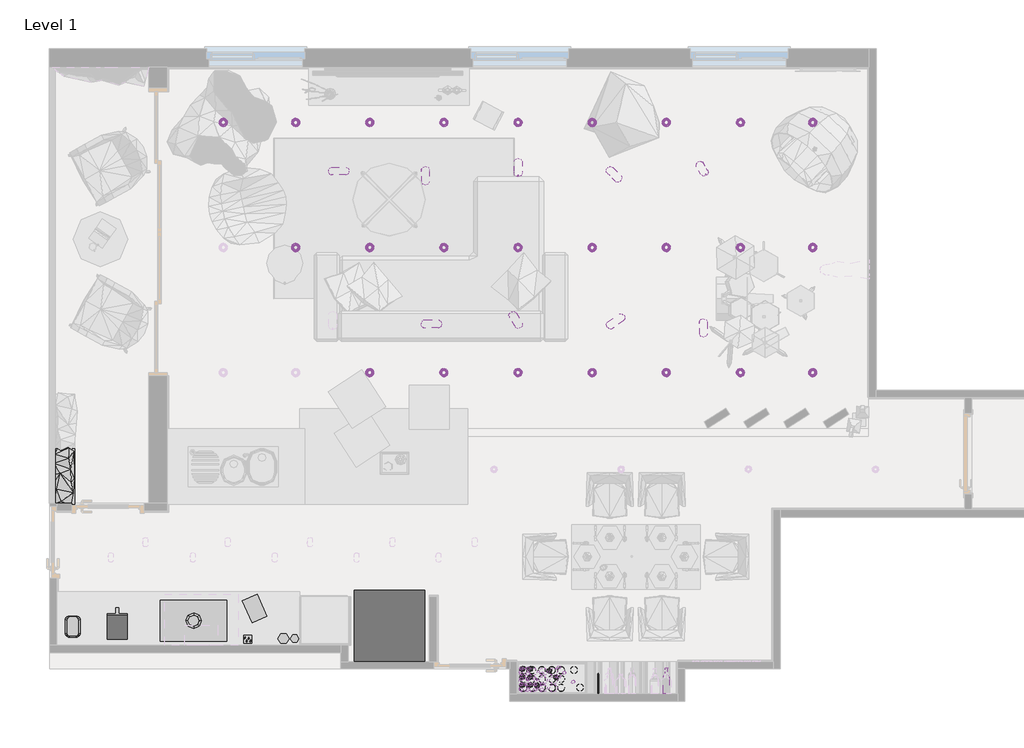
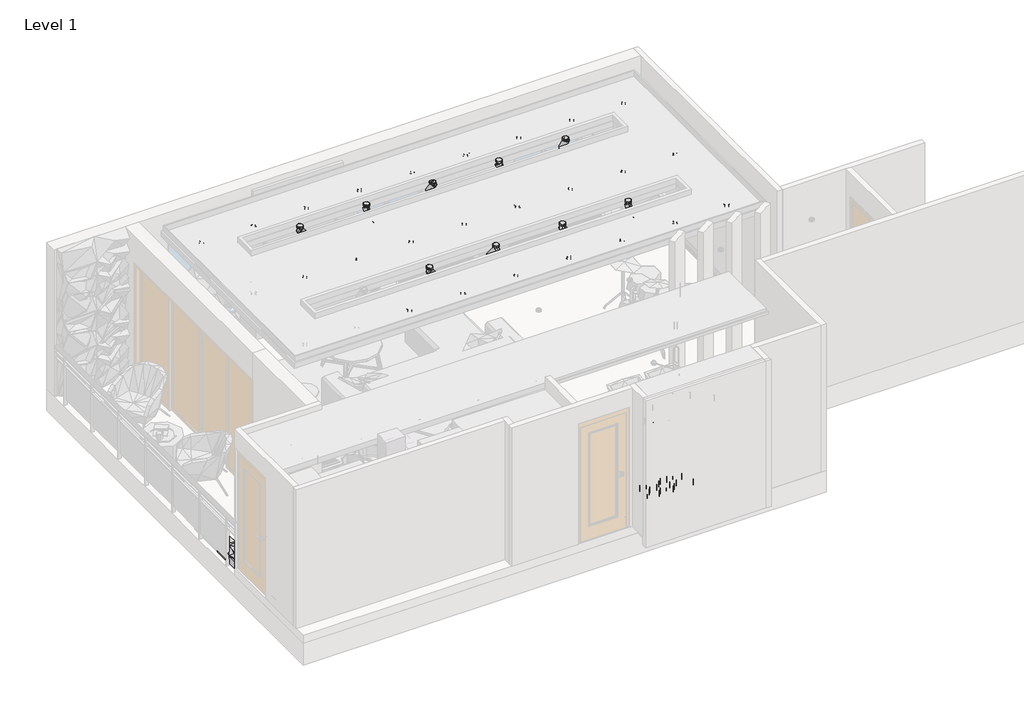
# One storey, part 2 of 3: 70 geographic elements, 33 light fixtures.
"""IFC4 building model written with IfcOpenShell, lengths in millimetres."""

from ifc_helpers import new_model, si_unit, origin, place, context, project, spatial, transform, mapped, element, save
from components import geographic_element_66572eef, geographic_element_bdc61dde, enscape_assetdefinition_bottle_006_wine_enscape_f008a982, enscape_assetdefinition_bottle_007_enscape_assetdefinition_5efa946b, enscape_assetdefinition_bottle_009_enscape_assetdefinition_91462ea6, enscape_assetdefinition_coffee_maker_007_enscape_659ea5d6, enscape_assetdefinition_container_005_enscape_2921bdb9, enscape_assetdefinition_container_006_enscape_9a3ee224, enscape_assetdefinition_cooktop_005_enscape_assetdefinition_37fae546, enscape_assetdefinition_glass_001_champagne_enscape_18e854bc, enscape_assetdefinition_glass_003_cocktail_enscape_7a6d063c, enscape_assetdefinition_glass_008_enscape_assetdefinition_770b69f1, enscape_assetdefinition_glass_012_wine_enscape_47986107, enscape_assetdefinition_kitchen_appliance_013_toaster_69132773, enscape_assetdefinition_kitchen_tool_002_cutting_boards_67aff8ed, enscape_assetdefinition_refrigerator_004_enscape_1c06175c, light_fixture_deb394d0, light_fixture_41abf64e, light_fixture_01643114, light_fixture_e22ec613, light_fixture_58baf5be, light_fixture_a0fbeb15, light_fixture_be3f1eb5, s2_2_7ed8d57b, s2_2_4e384665

model = new_model("IFC4")

# Units and contexts
model_context = context("Model", 3, world=origin())
ifc_project = project(units=[si_unit("LENGTHUNIT", "METRE", prefix="MILLI")], contexts=[model_context])

# Site, building, storey
site = spatial("IfcSite", under=ifc_project)
building = spatial("IfcBuilding", under=site)
storey = spatial("IfcBuildingStorey", under=building, Name="Level 1", Elevation=0.0)

# Geographic elements
placement = place(None, origin())
geographic_element_shape = geographic_element_66572eef(model_context)
element("IfcGeographicElement", 1, ObjectType="Enscape AssetDefinition - Kitchen Tool 016 Knife Block : Enscape AssetDefinition - Kitchen Tool 016 Knife Block", at=placement, inside=storey, context=model_context, shape_type="MappedRepresentation", body=[
    mapped(geographic_element_shape, transform((-5471.6034641, -2171.8717041, 900.0), x_axis=(1.0, 0.0, 0.0), y_axis=(0.0, 1.0, 0.0), z_axis=(0.0, 0.0, 1.0))),
])
geographic_element_2_shape = geographic_element_bdc61dde(model_context)
element("IfcGeographicElement", 2, ObjectType="Enscape AssetDefinition - Potted Plant 099 Geranium Planter : Enscape AssetDefinition - Potted Plant 099 Geranium Planter", at=placement, inside=storey, context=model_context, shape_type="MappedRepresentation", body=[
    mapped(geographic_element_2_shape, transform((-7753.5491004, -140.6706124, -150.0), x_axis=(0.0, 1.0, 0.0), y_axis=(-1.0, 0.0, 0.0), z_axis=(0.0, 0.0, 1.0))),
])
enscape_assetdefinition_bottle_006_wine_enscape_shape = enscape_assetdefinition_bottle_006_wine_enscape_f008a982(model_context)
element("IfcGeographicElement", 3, ObjectType="Enscape AssetDefinition - Bottle 006 Wine : Enscape AssetDefinition - Bottle 006 Wine", at=placement, inside=storey, context=model_context, shape_type="MappedRepresentation", body=[
    mapped(enscape_assetdefinition_bottle_006_wine_enscape_shape, transform((-259.6816647, -2849.0471901, 1797.2707265), x_axis=(1.0, 0.0, 0.0), y_axis=(0.0, 0.0, -1.0), z_axis=(0.0, 1.0, 0.0))),
])
enscape_assetdefinition_bottle_007_enscape_assetdefinition_shape = enscape_assetdefinition_bottle_007_enscape_assetdefinition_5efa946b(model_context)
element("IfcGeographicElement", 4, ObjectType="Enscape AssetDefinition - Bottle 007 : Enscape AssetDefinition - Bottle 007", at=placement, inside=storey, context=model_context, shape_type="MappedRepresentation", body=[
    mapped(enscape_assetdefinition_bottle_007_enscape_assetdefinition_shape, transform((-1107.0056032, -2849.0471901, 1239.2290061), x_axis=(1.0, 0.0, 0.0), y_axis=(0.0, 0.0, -1.0), z_axis=(0.0, 1.0, 0.0))),
])
enscape_assetdefinition_bottle_009_enscape_assetdefinition_shape = enscape_assetdefinition_bottle_009_enscape_assetdefinition_91462ea6(model_context)
element("IfcGeographicElement", 5, ObjectType="Enscape AssetDefinition - Bottle 009 : Enscape AssetDefinition - Bottle 009", at=placement, inside=storey, context=model_context, shape_type="MappedRepresentation", body=[
    mapped(enscape_assetdefinition_bottle_009_enscape_assetdefinition_shape, transform((-1109.1156626, -2849.0471901, 985.0486495), x_axis=(1.0, 0.0, 0.0), y_axis=(0.0, 0.0, -1.0), z_axis=(0.0, 1.0, 0.0))),
])
enscape_assetdefinition_coffee_maker_007_enscape_shape = enscape_assetdefinition_coffee_maker_007_enscape_659ea5d6(model_context)
element("IfcGeographicElement", 6, ObjectType="Enscape AssetDefinition - Coffee Maker 007 : Enscape AssetDefinition - Coffee Maker 007", at=placement, inside=storey, context=model_context, shape_type="MappedRepresentation", body=[
    mapped(enscape_assetdefinition_coffee_maker_007_enscape_shape, transform((-7094.8722423, -2016.6766176, 900.0), x_axis=(-1.0, 0.0, 0.0), y_axis=(0.0, -1.0, 0.0), z_axis=(0.0, 0.0, 1.0))),
])
enscape_assetdefinition_container_005_enscape_shape = enscape_assetdefinition_container_005_enscape_2921bdb9(model_context)
element("IfcGeographicElement", 7, ObjectType="Enscape AssetDefinition - Container 005 : Enscape AssetDefinition - Container 005", at=placement, inside=storey, context=model_context, shape_type="MappedRepresentation", body=[
    mapped(enscape_assetdefinition_container_005_enscape_shape, transform((-4886.6034641, -2160.348587, 900.0), x_axis=(1.0, 0.0, 0.0), y_axis=(0.0, 1.0, 0.0), z_axis=(0.0, 0.0, 1.0))),
])
enscape_assetdefinition_container_006_enscape_shape = enscape_assetdefinition_container_006_enscape_9a3ee224(model_context)
element("IfcGeographicElement", 8, ObjectType="Enscape AssetDefinition - Container 006 : Enscape AssetDefinition - Container 006", at=placement, inside=storey, context=model_context, shape_type="MappedRepresentation", body=[
    mapped(enscape_assetdefinition_container_006_enscape_shape, transform((-5026.6034641, -2160.348587, 900.0), x_axis=(1.0, 0.0, 0.0), y_axis=(0.0, 1.0, 0.0), z_axis=(0.0, 0.0, 1.0))),
])
enscape_assetdefinition_cooktop_005_enscape_assetdefinition_shape = enscape_assetdefinition_cooktop_005_enscape_assetdefinition_37fae546(model_context)
element("IfcGeographicElement", 9, ObjectType="Enscape AssetDefinition - Cooktop 005 : Enscape AssetDefinition - Cooktop 005", at=placement, inside=storey, context=model_context, shape_type="MappedRepresentation", body=[
    mapped(enscape_assetdefinition_cooktop_005_enscape_assetdefinition_shape, transform((-6145.4107527, -1938.8129127, 900.0), x_axis=(1.0, 0.0, 0.0), y_axis=(0.0, 1.0, 0.0), z_axis=(0.0, 0.0, 1.0))),
])
enscape_assetdefinition_glass_001_champagne_enscape_shape = enscape_assetdefinition_glass_001_champagne_enscape_18e854bc(model_context)
element("IfcGeographicElement", 10, ObjectType="Enscape AssetDefinition - Glass 001 Champagne : Enscape AssetDefinition - Glass 001 Champagne", at=placement, inside=storey, context=model_context, shape_type="MappedRepresentation", body=[
    mapped(enscape_assetdefinition_glass_001_champagne_enscape_shape, transform((-2063.9899912, -2799.0471901, 1465.8009172), x_axis=(1.0, 0.0, 0.0), y_axis=(0.0, 1.0, 0.0), z_axis=(0.0, 0.0, 1.0))),
])
element("IfcGeographicElement", 11, ObjectType="Enscape AssetDefinition - Glass 001 Champagne : Enscape AssetDefinition - Glass 001 Champagne", at=placement, inside=storey, context=model_context, shape_type="MappedRepresentation", body=[
    mapped(enscape_assetdefinition_glass_001_champagne_enscape_shape, transform((-2063.9899912, -2729.0471901, 1465.8009172), x_axis=(1.0, 0.0, 0.0), y_axis=(0.0, 1.0, 0.0), z_axis=(0.0, 0.0, 1.0))),
])
element("IfcGeographicElement", 12, ObjectType="Enscape AssetDefinition - Glass 001 Champagne : Enscape AssetDefinition - Glass 001 Champagne", at=placement, inside=storey, context=model_context, shape_type="MappedRepresentation", body=[
    mapped(enscape_assetdefinition_glass_001_champagne_enscape_shape, transform((-2063.9899912, -2664.0471901, 1465.8009172), x_axis=(1.0, 0.0, 0.0), y_axis=(0.0, 1.0, 0.0), z_axis=(0.0, 0.0, 1.0))),
])
element("IfcGeographicElement", 13, ObjectType="Enscape AssetDefinition - Glass 001 Champagne : Enscape AssetDefinition - Glass 001 Champagne", at=placement, inside=storey, context=model_context, shape_type="MappedRepresentation", body=[
    mapped(enscape_assetdefinition_glass_001_champagne_enscape_shape, transform((-2063.9899912, -2599.0471901, 1465.8009172), x_axis=(1.0, 0.0, 0.0), y_axis=(0.0, 1.0, 0.0), z_axis=(0.0, 0.0, 1.0))),
])
element("IfcGeographicElement", 14, ObjectType="Enscape AssetDefinition - Glass 001 Champagne : Enscape AssetDefinition - Glass 001 Champagne", at=placement, inside=storey, context=model_context, shape_type="MappedRepresentation", body=[
    mapped(enscape_assetdefinition_glass_001_champagne_enscape_shape, transform((-2063.9899912, -2534.0471901, 1465.8009172), x_axis=(1.0, 0.0, 0.0), y_axis=(0.0, 1.0, 0.0), z_axis=(0.0, 0.0, 1.0))),
])
element("IfcGeographicElement", 15, ObjectType="Enscape AssetDefinition - Glass 001 Champagne : Enscape AssetDefinition - Glass 001 Champagne", at=placement, inside=storey, context=model_context, shape_type="MappedRepresentation", body=[
    mapped(enscape_assetdefinition_glass_001_champagne_enscape_shape, transform((-1983.9899912, -2799.0471901, 1465.8009172), x_axis=(1.0, 0.0, 0.0), y_axis=(0.0, 1.0, 0.0), z_axis=(0.0, 0.0, 1.0))),
])
element("IfcGeographicElement", 16, ObjectType="Enscape AssetDefinition - Glass 001 Champagne : Enscape AssetDefinition - Glass 001 Champagne", at=placement, inside=storey, context=model_context, shape_type="MappedRepresentation", body=[
    mapped(enscape_assetdefinition_glass_001_champagne_enscape_shape, transform((-1983.9899912, -2729.0471901, 1465.8009172), x_axis=(1.0, 0.0, 0.0), y_axis=(0.0, 1.0, 0.0), z_axis=(0.0, 0.0, 1.0))),
])
element("IfcGeographicElement", 17, ObjectType="Enscape AssetDefinition - Glass 001 Champagne : Enscape AssetDefinition - Glass 001 Champagne", at=placement, inside=storey, context=model_context, shape_type="MappedRepresentation", body=[
    mapped(enscape_assetdefinition_glass_001_champagne_enscape_shape, transform((-1983.9899912, -2664.0471901, 1465.8009172), x_axis=(1.0, 0.0, 0.0), y_axis=(0.0, 1.0, 0.0), z_axis=(0.0, 0.0, 1.0))),
])
element("IfcGeographicElement", 18, ObjectType="Enscape AssetDefinition - Glass 001 Champagne : Enscape AssetDefinition - Glass 001 Champagne", at=placement, inside=storey, context=model_context, shape_type="MappedRepresentation", body=[
    mapped(enscape_assetdefinition_glass_001_champagne_enscape_shape, transform((-1983.9899912, -2599.0471901, 1465.8009172), x_axis=(1.0, 0.0, 0.0), y_axis=(0.0, 1.0, 0.0), z_axis=(0.0, 0.0, 1.0))),
])
element("IfcGeographicElement", 19, ObjectType="Enscape AssetDefinition - Glass 001 Champagne : Enscape AssetDefinition - Glass 001 Champagne", at=placement, inside=storey, context=model_context, shape_type="MappedRepresentation", body=[
    mapped(enscape_assetdefinition_glass_001_champagne_enscape_shape, transform((-1983.9899912, -2534.0471901, 1465.8009172), x_axis=(1.0, 0.0, 0.0), y_axis=(0.0, 1.0, 0.0), z_axis=(0.0, 0.0, 1.0))),
])
element("IfcGeographicElement", 20, ObjectType="Enscape AssetDefinition - Glass 001 Champagne : Enscape AssetDefinition - Glass 001 Champagne", at=placement, inside=storey, context=model_context, shape_type="MappedRepresentation", body=[
    mapped(enscape_assetdefinition_glass_001_champagne_enscape_shape, transform((-1893.9899912, -2799.0471901, 1465.8009172), x_axis=(1.0, 0.0, 0.0), y_axis=(0.0, 1.0, 0.0), z_axis=(0.0, 0.0, 1.0))),
])
element("IfcGeographicElement", 21, ObjectType="Enscape AssetDefinition - Glass 001 Champagne : Enscape AssetDefinition - Glass 001 Champagne", at=placement, inside=storey, context=model_context, shape_type="MappedRepresentation", body=[
    mapped(enscape_assetdefinition_glass_001_champagne_enscape_shape, transform((-1893.9899912, -2729.0471901, 1465.8009172), x_axis=(1.0, 0.0, 0.0), y_axis=(0.0, 1.0, 0.0), z_axis=(0.0, 0.0, 1.0))),
])
element("IfcGeographicElement", 22, ObjectType="Enscape AssetDefinition - Glass 001 Champagne : Enscape AssetDefinition - Glass 001 Champagne", at=placement, inside=storey, context=model_context, shape_type="MappedRepresentation", body=[
    mapped(enscape_assetdefinition_glass_001_champagne_enscape_shape, transform((-1893.9899912, -2664.0471901, 1465.8009172), x_axis=(1.0, 0.0, 0.0), y_axis=(0.0, 1.0, 0.0), z_axis=(0.0, 0.0, 1.0))),
])
element("IfcGeographicElement", 23, ObjectType="Enscape AssetDefinition - Glass 001 Champagne : Enscape AssetDefinition - Glass 001 Champagne", at=placement, inside=storey, context=model_context, shape_type="MappedRepresentation", body=[
    mapped(enscape_assetdefinition_glass_001_champagne_enscape_shape, transform((-1808.9899912, -2799.0471901, 1465.8009172), x_axis=(1.0, 0.0, 0.0), y_axis=(0.0, 1.0, 0.0), z_axis=(0.0, 0.0, 1.0))),
])
element("IfcGeographicElement", 24, ObjectType="Enscape AssetDefinition - Glass 001 Champagne : Enscape AssetDefinition - Glass 001 Champagne", at=placement, inside=storey, context=model_context, shape_type="MappedRepresentation", body=[
    mapped(enscape_assetdefinition_glass_001_champagne_enscape_shape, transform((-1808.9899912, -2729.0471901, 1465.8009172), x_axis=(1.0, 0.0, 0.0), y_axis=(0.0, 1.0, 0.0), z_axis=(0.0, 0.0, 1.0))),
])
element("IfcGeographicElement", 25, ObjectType="Enscape AssetDefinition - Glass 001 Champagne : Enscape AssetDefinition - Glass 001 Champagne", at=placement, inside=storey, context=model_context, shape_type="MappedRepresentation", body=[
    mapped(enscape_assetdefinition_glass_001_champagne_enscape_shape, transform((-1418.9899912, -2699.0471901, 1465.8009172), x_axis=(1.0, 0.0, 0.0), y_axis=(0.0, 1.0, 0.0), z_axis=(0.0, 0.0, 1.0))),
])
element("IfcGeographicElement", 26, ObjectType="Enscape AssetDefinition - Glass 001 Champagne : Enscape AssetDefinition - Glass 001 Champagne", at=placement, inside=storey, context=model_context, shape_type="MappedRepresentation", body=[
    mapped(enscape_assetdefinition_glass_001_champagne_enscape_shape, transform((-1808.9899912, -2599.0471901, 1465.8009172), x_axis=(1.0, 0.0, 0.0), y_axis=(0.0, 1.0, 0.0), z_axis=(0.0, 0.0, 1.0))),
])
element("IfcGeographicElement", 27, ObjectType="Enscape AssetDefinition - Glass 001 Champagne : Enscape AssetDefinition - Glass 001 Champagne", at=placement, inside=storey, context=model_context, shape_type="MappedRepresentation", body=[
    mapped(enscape_assetdefinition_glass_001_champagne_enscape_shape, transform((-1596.0076612, -2633.3624816, 1465.8009172), x_axis=(1.0, 0.0, 0.0), y_axis=(0.0, 1.0, 0.0), z_axis=(0.0, 0.0, 1.0))),
])
element("IfcGeographicElement", 28, ObjectType="Enscape AssetDefinition - Glass 001 Champagne : Enscape AssetDefinition - Glass 001 Champagne", at=placement, inside=storey, context=model_context, shape_type="MappedRepresentation", body=[
    mapped(enscape_assetdefinition_glass_001_champagne_enscape_shape, transform((-1530.4754977, -2587.4763667, 1465.8009172), x_axis=(1.0, 0.0, 0.0), y_axis=(0.0, 1.0, 0.0), z_axis=(0.0, 0.0, 1.0))),
])
element("IfcGeographicElement", 29, ObjectType="Enscape AssetDefinition - Glass 001 Champagne : Enscape AssetDefinition - Glass 001 Champagne", at=placement, inside=storey, context=model_context, shape_type="MappedRepresentation", body=[
    mapped(enscape_assetdefinition_glass_001_champagne_enscape_shape, transform((-1597.6506419, -2520.3012225, 1465.8009172), x_axis=(1.0, 0.0, 0.0), y_axis=(0.0, 1.0, 0.0), z_axis=(0.0, 0.0, 1.0))),
])
enscape_assetdefinition_glass_003_cocktail_enscape_shape = enscape_assetdefinition_glass_003_cocktail_enscape_7a6d063c(model_context)
element("IfcGeographicElement", 30, ObjectType="Enscape AssetDefinition - Glass 003 Cocktail : Enscape AssetDefinition - Glass 003 Cocktail", at=placement, inside=storey, context=model_context, shape_type="MappedRepresentation", body=[
    mapped(enscape_assetdefinition_glass_003_cocktail_enscape_shape, transform((-2038.9899912, -2779.0471901, 1890.7013758), x_axis=(1.0, 0.0, 0.0), y_axis=(0.0, 1.0, 0.0), z_axis=(0.0, 0.0, 1.0))),
])
element("IfcGeographicElement", 31, ObjectType="Enscape AssetDefinition - Glass 003 Cocktail : Enscape AssetDefinition - Glass 003 Cocktail", at=placement, inside=storey, context=model_context, shape_type="MappedRepresentation", body=[
    mapped(enscape_assetdefinition_glass_003_cocktail_enscape_shape, transform((-2038.9899912, -2679.0471901, 1890.7013758), x_axis=(1.0, 0.0, 0.0), y_axis=(0.0, 1.0, 0.0), z_axis=(0.0, 0.0, 1.0))),
])
element("IfcGeographicElement", 32, ObjectType="Enscape AssetDefinition - Glass 003 Cocktail : Enscape AssetDefinition - Glass 003 Cocktail", at=placement, inside=storey, context=model_context, shape_type="MappedRepresentation", body=[
    mapped(enscape_assetdefinition_glass_003_cocktail_enscape_shape, transform((-2038.9899912, -2574.0471901, 1890.7013758), x_axis=(1.0, 0.0, 0.0), y_axis=(0.0, 1.0, 0.0), z_axis=(0.0, 0.0, 1.0))),
])
element("IfcGeographicElement", 33, ObjectType="Enscape AssetDefinition - Glass 003 Cocktail : Enscape AssetDefinition - Glass 003 Cocktail", at=placement, inside=storey, context=model_context, shape_type="MappedRepresentation", body=[
    mapped(enscape_assetdefinition_glass_003_cocktail_enscape_shape, transform((-1918.9899912, -2779.0471901, 1890.7013758), x_axis=(1.0, 0.0, 0.0), y_axis=(0.0, 1.0, 0.0), z_axis=(0.0, 0.0, 1.0))),
])
element("IfcGeographicElement", 34, ObjectType="Enscape AssetDefinition - Glass 003 Cocktail : Enscape AssetDefinition - Glass 003 Cocktail", at=placement, inside=storey, context=model_context, shape_type="MappedRepresentation", body=[
    mapped(enscape_assetdefinition_glass_003_cocktail_enscape_shape, transform((-1918.9899912, -2679.0471901, 1890.7013758), x_axis=(1.0, 0.0, 0.0), y_axis=(0.0, 1.0, 0.0), z_axis=(0.0, 0.0, 1.0))),
])
element("IfcGeographicElement", 35, ObjectType="Enscape AssetDefinition - Glass 003 Cocktail : Enscape AssetDefinition - Glass 003 Cocktail", at=placement, inside=storey, context=model_context, shape_type="MappedRepresentation", body=[
    mapped(enscape_assetdefinition_glass_003_cocktail_enscape_shape, transform((-1918.9899912, -2574.0471901, 1890.7013758), x_axis=(1.0, 0.0, 0.0), y_axis=(0.0, 1.0, 0.0), z_axis=(0.0, 0.0, 1.0))),
])
element("IfcGeographicElement", 36, ObjectType="Enscape AssetDefinition - Glass 003 Cocktail : Enscape AssetDefinition - Glass 003 Cocktail", at=placement, inside=storey, context=model_context, shape_type="MappedRepresentation", body=[
    mapped(enscape_assetdefinition_glass_003_cocktail_enscape_shape, transform((-1793.9899912, -2779.0471901, 1890.7013758), x_axis=(1.0, 0.0, 0.0), y_axis=(0.0, 1.0, 0.0), z_axis=(0.0, 0.0, 1.0))),
])
element("IfcGeographicElement", 37, ObjectType="Enscape AssetDefinition - Glass 003 Cocktail : Enscape AssetDefinition - Glass 003 Cocktail", at=placement, inside=storey, context=model_context, shape_type="MappedRepresentation", body=[
    mapped(enscape_assetdefinition_glass_003_cocktail_enscape_shape, transform((-1793.9899912, -2679.0471901, 1890.7013758), x_axis=(1.0, 0.0, 0.0), y_axis=(0.0, 1.0, 0.0), z_axis=(0.0, 0.0, 1.0))),
])
element("IfcGeographicElement", 38, ObjectType="Enscape AssetDefinition - Glass 003 Cocktail : Enscape AssetDefinition - Glass 003 Cocktail", at=placement, inside=storey, context=model_context, shape_type="MappedRepresentation", body=[
    mapped(enscape_assetdefinition_glass_003_cocktail_enscape_shape, transform((-1793.9899912, -2574.0471901, 1890.7013758), x_axis=(1.0, 0.0, 0.0), y_axis=(0.0, 1.0, 0.0), z_axis=(0.0, 0.0, 1.0))),
])
element("IfcGeographicElement", 39, ObjectType="Enscape AssetDefinition - Glass 003 Cocktail : Enscape AssetDefinition - Glass 003 Cocktail", at=placement, inside=storey, context=model_context, shape_type="MappedRepresentation", body=[
    mapped(enscape_assetdefinition_glass_003_cocktail_enscape_shape, transform((-1663.9899912, -2779.0471901, 1890.7013758), x_axis=(1.0, 0.0, 0.0), y_axis=(0.0, 1.0, 0.0), z_axis=(0.0, 0.0, 1.0))),
])
element("IfcGeographicElement", 40, ObjectType="Enscape AssetDefinition - Glass 003 Cocktail : Enscape AssetDefinition - Glass 003 Cocktail", at=placement, inside=storey, context=model_context, shape_type="MappedRepresentation", body=[
    mapped(enscape_assetdefinition_glass_003_cocktail_enscape_shape, transform((-1663.9899912, -2679.0471901, 1890.7013758), x_axis=(1.0, 0.0, 0.0), y_axis=(0.0, 1.0, 0.0), z_axis=(0.0, 0.0, 1.0))),
])
element("IfcGeographicElement", 41, ObjectType="Enscape AssetDefinition - Glass 003 Cocktail : Enscape AssetDefinition - Glass 003 Cocktail", at=placement, inside=storey, context=model_context, shape_type="MappedRepresentation", body=[
    mapped(enscape_assetdefinition_glass_003_cocktail_enscape_shape, transform((-1663.9899912, -2574.0471901, 1890.7013758), x_axis=(1.0, 0.0, 0.0), y_axis=(0.0, 1.0, 0.0), z_axis=(0.0, 0.0, 1.0))),
])
enscape_assetdefinition_glass_008_enscape_assetdefinition_shape = enscape_assetdefinition_glass_008_enscape_assetdefinition_770b69f1(model_context)
element("IfcGeographicElement", 42, ObjectType="Enscape AssetDefinition - Glass 008 : Enscape AssetDefinition - Glass 008", at=placement, inside=storey, context=model_context, shape_type="MappedRepresentation", body=[
    mapped(enscape_assetdefinition_glass_008_enscape_assetdefinition_shape, transform((-2038.9899912, -2774.0471901, 600.0), x_axis=(1.0, 0.0, 0.0), y_axis=(0.0, 1.0, 0.0), z_axis=(0.0, 0.0, 1.0))),
])
element("IfcGeographicElement", 43, ObjectType="Enscape AssetDefinition - Glass 008 : Enscape AssetDefinition - Glass 008", at=placement, inside=storey, context=model_context, shape_type="MappedRepresentation", body=[
    mapped(enscape_assetdefinition_glass_008_enscape_assetdefinition_shape, transform((-2038.9899912, -2664.0471901, 600.0), x_axis=(1.0, 0.0, 0.0), y_axis=(0.0, 1.0, 0.0), z_axis=(0.0, 0.0, 1.0))),
])
element("IfcGeographicElement", 44, ObjectType="Enscape AssetDefinition - Glass 008 : Enscape AssetDefinition - Glass 008", at=placement, inside=storey, context=model_context, shape_type="MappedRepresentation", body=[
    mapped(enscape_assetdefinition_glass_008_enscape_assetdefinition_shape, transform((-2038.9899912, -2554.0471901, 600.0), x_axis=(1.0, 0.0, 0.0), y_axis=(0.0, 1.0, 0.0), z_axis=(0.0, 0.0, 1.0))),
])
element("IfcGeographicElement", 45, ObjectType="Enscape AssetDefinition - Glass 008 : Enscape AssetDefinition - Glass 008", at=placement, inside=storey, context=model_context, shape_type="MappedRepresentation", body=[
    mapped(enscape_assetdefinition_glass_008_enscape_assetdefinition_shape, transform((-1928.9899912, -2774.0471901, 600.0), x_axis=(1.0, 0.0, 0.0), y_axis=(0.0, 1.0, 0.0), z_axis=(0.0, 0.0, 1.0))),
])
element("IfcGeographicElement", 46, ObjectType="Enscape AssetDefinition - Glass 008 : Enscape AssetDefinition - Glass 008", at=placement, inside=storey, context=model_context, shape_type="MappedRepresentation", body=[
    mapped(enscape_assetdefinition_glass_008_enscape_assetdefinition_shape, transform((-1928.9899912, -2664.0471901, 600.0), x_axis=(1.0, 0.0, 0.0), y_axis=(0.0, 1.0, 0.0), z_axis=(0.0, 0.0, 1.0))),
])
element("IfcGeographicElement", 47, ObjectType="Enscape AssetDefinition - Glass 008 : Enscape AssetDefinition - Glass 008", at=placement, inside=storey, context=model_context, shape_type="MappedRepresentation", body=[
    mapped(enscape_assetdefinition_glass_008_enscape_assetdefinition_shape, transform((-1928.9899912, -2554.0471901, 600.0), x_axis=(1.0, 0.0, 0.0), y_axis=(0.0, 1.0, 0.0), z_axis=(0.0, 0.0, 1.0))),
])
element("IfcGeographicElement", 48, ObjectType="Enscape AssetDefinition - Glass 008 : Enscape AssetDefinition - Glass 008", at=placement, inside=storey, context=model_context, shape_type="MappedRepresentation", body=[
    mapped(enscape_assetdefinition_glass_008_enscape_assetdefinition_shape, transform((-1808.9899912, -2774.0471901, 600.0), x_axis=(1.0, 0.0, 0.0), y_axis=(0.0, 1.0, 0.0), z_axis=(0.0, 0.0, 1.0))),
])
element("IfcGeographicElement", 49, ObjectType="Enscape AssetDefinition - Glass 008 : Enscape AssetDefinition - Glass 008", at=placement, inside=storey, context=model_context, shape_type="MappedRepresentation", body=[
    mapped(enscape_assetdefinition_glass_008_enscape_assetdefinition_shape, transform((-1808.9899912, -2664.0471901, 600.0), x_axis=(1.0, 0.0, 0.0), y_axis=(0.0, 1.0, 0.0), z_axis=(0.0, 0.0, 1.0))),
])
element("IfcGeographicElement", 50, ObjectType="Enscape AssetDefinition - Glass 008 : Enscape AssetDefinition - Glass 008", at=placement, inside=storey, context=model_context, shape_type="MappedRepresentation", body=[
    mapped(enscape_assetdefinition_glass_008_enscape_assetdefinition_shape, transform((-1808.9899912, -2554.0471901, 600.0), x_axis=(1.0, 0.0, 0.0), y_axis=(0.0, 1.0, 0.0), z_axis=(0.0, 0.0, 1.0))),
])
element("IfcGeographicElement", 51, ObjectType="Enscape AssetDefinition - Glass 008 : Enscape AssetDefinition - Glass 008", at=placement, inside=storey, context=model_context, shape_type="MappedRepresentation", body=[
    mapped(enscape_assetdefinition_glass_008_enscape_assetdefinition_shape, transform((-1683.9899912, -2774.0471901, 600.0), x_axis=(1.0, 0.0, 0.0), y_axis=(0.0, 1.0, 0.0), z_axis=(0.0, 0.0, 1.0))),
])
element("IfcGeographicElement", 52, ObjectType="Enscape AssetDefinition - Glass 008 : Enscape AssetDefinition - Glass 008", at=placement, inside=storey, context=model_context, shape_type="MappedRepresentation", body=[
    mapped(enscape_assetdefinition_glass_008_enscape_assetdefinition_shape, transform((-1683.9899912, -2664.0471901, 600.0), x_axis=(1.0, 0.0, 0.0), y_axis=(0.0, 1.0, 0.0), z_axis=(0.0, 0.0, 1.0))),
])
element("IfcGeographicElement", 53, ObjectType="Enscape AssetDefinition - Glass 008 : Enscape AssetDefinition - Glass 008", at=placement, inside=storey, context=model_context, shape_type="MappedRepresentation", body=[
    mapped(enscape_assetdefinition_glass_008_enscape_assetdefinition_shape, transform((-1683.9899912, -2554.0471901, 600.0), x_axis=(1.0, 0.0, 0.0), y_axis=(0.0, 1.0, 0.0), z_axis=(0.0, 0.0, 1.0))),
])
element("IfcGeographicElement", 54, ObjectType="Enscape AssetDefinition - Glass 008 : Enscape AssetDefinition - Glass 008", at=placement, inside=storey, context=model_context, shape_type="MappedRepresentation", body=[
    mapped(enscape_assetdefinition_glass_008_enscape_assetdefinition_shape, transform((-1568.9899912, -2774.0471901, 600.0), x_axis=(1.0, 0.0, 0.0), y_axis=(0.0, 1.0, 0.0), z_axis=(0.0, 0.0, 1.0))),
])
element("IfcGeographicElement", 55, ObjectType="Enscape AssetDefinition - Glass 008 : Enscape AssetDefinition - Glass 008", at=placement, inside=storey, context=model_context, shape_type="MappedRepresentation", body=[
    mapped(enscape_assetdefinition_glass_008_enscape_assetdefinition_shape, transform((-1568.9899912, -2664.0471901, 600.0), x_axis=(1.0, 0.0, 0.0), y_axis=(0.0, 1.0, 0.0), z_axis=(0.0, 0.0, 1.0))),
])
element("IfcGeographicElement", 56, ObjectType="Enscape AssetDefinition - Glass 008 : Enscape AssetDefinition - Glass 008", at=placement, inside=storey, context=model_context, shape_type="MappedRepresentation", body=[
    mapped(enscape_assetdefinition_glass_008_enscape_assetdefinition_shape, transform((-1568.9899912, -2554.0471901, 600.0), x_axis=(1.0, 0.0, 0.0), y_axis=(0.0, 1.0, 0.0), z_axis=(0.0, 0.0, 1.0))),
])
element("IfcGeographicElement", 57, ObjectType="Enscape AssetDefinition - Glass 008 : Enscape AssetDefinition - Glass 008", at=placement, inside=storey, context=model_context, shape_type="MappedRepresentation", body=[
    mapped(enscape_assetdefinition_glass_008_enscape_assetdefinition_shape, transform((-1409.2553425, -2552.199785, 600.0), x_axis=(1.0, 0.0, 0.0), y_axis=(0.0, 1.0, 0.0), z_axis=(0.0, 0.0, 1.0))),
])
element("IfcGeographicElement", 58, ObjectType="Enscape AssetDefinition - Glass 008 : Enscape AssetDefinition - Glass 008", at=placement, inside=storey, context=model_context, shape_type="MappedRepresentation", body=[
    mapped(enscape_assetdefinition_glass_008_enscape_assetdefinition_shape, transform((-1334.374667, -2769.6690574, 600.0), x_axis=(1.0, 0.0, 0.0), y_axis=(0.0, 1.0, 0.0), z_axis=(0.0, 0.0, 1.0))),
])
enscape_assetdefinition_glass_012_wine_enscape_shape = enscape_assetdefinition_glass_012_wine_enscape_47986107(model_context)
element("IfcGeographicElement", 59, ObjectType="Enscape AssetDefinition - Glass 012 Wine : Enscape AssetDefinition - Glass 012 Wine", at=placement, inside=storey, context=model_context, shape_type="MappedRepresentation", body=[
    mapped(enscape_assetdefinition_glass_012_wine_enscape_shape, transform((-2053.9899912, -2539.0471901, 1040.9004586), x_axis=(1.0, 0.0, 0.0), y_axis=(0.0, 1.0, 0.0), z_axis=(0.0, 0.0, 1.0))),
])
element("IfcGeographicElement", 60, ObjectType="Enscape AssetDefinition - Glass 012 Wine : Enscape AssetDefinition - Glass 012 Wine", at=placement, inside=storey, context=model_context, shape_type="MappedRepresentation", body=[
    mapped(enscape_assetdefinition_glass_012_wine_enscape_shape, transform((-2053.9899912, -2639.0471901, 1040.9004586), x_axis=(1.0, 0.0, 0.0), y_axis=(0.0, 1.0, 0.0), z_axis=(0.0, 0.0, 1.0))),
])
element("IfcGeographicElement", 61, ObjectType="Enscape AssetDefinition - Glass 012 Wine : Enscape AssetDefinition - Glass 012 Wine", at=placement, inside=storey, context=model_context, shape_type="MappedRepresentation", body=[
    mapped(enscape_assetdefinition_glass_012_wine_enscape_shape, transform((-2053.9899912, -2739.0471901, 1040.9004586), x_axis=(1.0, 0.0, 0.0), y_axis=(0.0, 1.0, 0.0), z_axis=(0.0, 0.0, 1.0))),
])
element("IfcGeographicElement", 62, ObjectType="Enscape AssetDefinition - Glass 012 Wine : Enscape AssetDefinition - Glass 012 Wine", at=placement, inside=storey, context=model_context, shape_type="MappedRepresentation", body=[
    mapped(enscape_assetdefinition_glass_012_wine_enscape_shape, transform((-1953.9899912, -2739.0471901, 1040.9004586), x_axis=(1.0, 0.0, 0.0), y_axis=(0.0, 1.0, 0.0), z_axis=(0.0, 0.0, 1.0))),
])
element("IfcGeographicElement", 63, ObjectType="Enscape AssetDefinition - Glass 012 Wine : Enscape AssetDefinition - Glass 012 Wine", at=placement, inside=storey, context=model_context, shape_type="MappedRepresentation", body=[
    mapped(enscape_assetdefinition_glass_012_wine_enscape_shape, transform((-1953.9899912, -2639.0471901, 1040.9004586), x_axis=(1.0, 0.0, 0.0), y_axis=(0.0, 1.0, 0.0), z_axis=(0.0, 0.0, 1.0))),
])
element("IfcGeographicElement", 64, ObjectType="Enscape AssetDefinition - Glass 012 Wine : Enscape AssetDefinition - Glass 012 Wine", at=placement, inside=storey, context=model_context, shape_type="MappedRepresentation", body=[
    mapped(enscape_assetdefinition_glass_012_wine_enscape_shape, transform((-1953.9899912, -2539.0471901, 1040.9004586), x_axis=(1.0, 0.0, 0.0), y_axis=(0.0, 1.0, 0.0), z_axis=(0.0, 0.0, 1.0))),
])
element("IfcGeographicElement", 65, ObjectType="Enscape AssetDefinition - Glass 012 Wine : Enscape AssetDefinition - Glass 012 Wine", at=placement, inside=storey, context=model_context, shape_type="MappedRepresentation", body=[
    mapped(enscape_assetdefinition_glass_012_wine_enscape_shape, transform((-1630.6307756, -2644.1129682, 1040.9004586), x_axis=(1.0, 0.0, 0.0), y_axis=(0.0, 1.0, 0.0), z_axis=(0.0, 0.0, 1.0))),
])
element("IfcGeographicElement", 66, ObjectType="Enscape AssetDefinition - Glass 012 Wine : Enscape AssetDefinition - Glass 012 Wine", at=placement, inside=storey, context=model_context, shape_type="MappedRepresentation", body=[
    mapped(enscape_assetdefinition_glass_012_wine_enscape_shape, transform((-1715.4835894, -2559.2601545, 1040.9004586), x_axis=(1.0, 0.0, 0.0), y_axis=(0.0, 1.0, 0.0), z_axis=(0.0, 0.0, 1.0))),
])
element("IfcGeographicElement", 67, ObjectType="Enscape AssetDefinition - Glass 012 Wine : Enscape AssetDefinition - Glass 012 Wine", at=placement, inside=storey, context=model_context, shape_type="MappedRepresentation", body=[
    mapped(enscape_assetdefinition_glass_012_wine_enscape_shape, transform((-1866.5204832, -2745.7751852, 1040.9004586), x_axis=(1.0, 0.0, 0.0), y_axis=(0.0, 1.0, 0.0), z_axis=(0.0, 0.0, 1.0))),
])
enscape_assetdefinition_kitchen_appliance_013_toaster_shape = enscape_assetdefinition_kitchen_appliance_013_toaster_69132773(model_context)
element("IfcGeographicElement", 68, ObjectType="Enscape AssetDefinition - Kitchen Appliance 013 Toaster : Enscape AssetDefinition - Kitchen Appliance 013 Toaster", at=placement, inside=storey, context=model_context, shape_type="MappedRepresentation", body=[
    mapped(enscape_assetdefinition_kitchen_appliance_013_toaster_shape, transform((-7649.8250642, -2011.8717041, 900.0), x_axis=(0.0, -1.0, 0.0), y_axis=(1.0, 0.0, 0.0), z_axis=(0.0, 0.0, 1.0))),
])
enscape_assetdefinition_kitchen_tool_002_cutting_boards_shape = enscape_assetdefinition_kitchen_tool_002_cutting_boards_67aff8ed(model_context)
element("IfcGeographicElement", 69, ObjectType="Enscape AssetDefinition - Kitchen Tool 002 Cutting Boards : Enscape AssetDefinition - Kitchen Tool 002 Cutting Boards", at=placement, inside=storey, context=model_context, shape_type="MappedRepresentation", body=[
    mapped(enscape_assetdefinition_kitchen_tool_002_cutting_boards_shape, transform((-5436.2646825, -1662.1603157, 900.0), x_axis=(0.4061422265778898, -0.9138098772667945, 0.0), y_axis=(0.9138098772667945, 0.4061422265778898, 0.0), z_axis=(0.0, 0.0, 1.0))),
])
enscape_assetdefinition_refrigerator_004_enscape_shape = enscape_assetdefinition_refrigerator_004_enscape_1c06175c(model_context)
element("IfcGeographicElement", 70, ObjectType="Enscape AssetDefinition - Refrigerator 004 : Enscape AssetDefinition - Refrigerator 004", at=placement, inside=storey, context=model_context, shape_type="MappedRepresentation", body=[
    mapped(enscape_assetdefinition_refrigerator_004_enscape_shape, transform((-3706.6034641, -2001.5989847, 0.0), x_axis=(-1.0, 0.0, 0.0), y_axis=(0.0, -1.0, 0.0), z_axis=(0.0, 0.0, 1.0))),
])

# Light fixtures
light_fixture_shape = light_fixture_deb394d0(model_context)
element("IfcLightFixture", 71, ObjectType="PIPES C S : 1700 21W-830 28°", at=placement, inside=storey, context=model_context, shape_type="MappedRepresentation", body=[
    mapped(light_fixture_shape, transform((-4413.2653116, 3660.3773131, 2550.0), x_axis=(0.0, -1.0, 0.0), y_axis=(-1.0, 0.0, 0.0), z_axis=(0.0, 0.0, -1.0))),
])
element("IfcLightFixture", 72, ObjectType="PIPES C S : 1700 21W-830 28°", at=placement, inside=storey, context=model_context, shape_type="MappedRepresentation", body=[
    mapped(light_fixture_shape, transform((-3259.3659264, 1755.7525122, 2550.0), x_axis=(0.0, -1.0, 0.0), y_axis=(-1.0, 0.0, 0.0), z_axis=(0.0, 0.0, -1.0))),
])
light_fixture_2_shape = light_fixture_41abf64e(model_context)
element("IfcLightFixture", 73, ObjectType="PIPES C S : 1700 21W-830 28°", at=placement, inside=storey, context=model_context, shape_type="MappedRepresentation", body=[
    mapped(light_fixture_2_shape, transform((-3259.3659264, 3660.3773131, 2550.0), x_axis=(0.0, -1.0, 0.0), y_axis=(-1.0, 0.0, 0.0), z_axis=(0.0, 0.0, -1.0))),
])
element("IfcLightFixture", 74, ObjectType="PIPES C S : 1700 21W-830 28°", at=placement, inside=storey, context=model_context, shape_type="MappedRepresentation", body=[
    mapped(light_fixture_2_shape, transform((202.3322289, 1765.3312328, 2550.0), x_axis=(0.0, -1.0, 0.0), y_axis=(-1.0, 0.0, 0.0), z_axis=(0.0, 0.0, -1.0))),
])
light_fixture_3_shape = light_fixture_01643114(model_context)
element("IfcLightFixture", 75, ObjectType="PIPES C S : 1700 21W-830 28°", at=placement, inside=storey, context=model_context, shape_type="MappedRepresentation", body=[
    mapped(light_fixture_3_shape, transform((-2105.4665413, 3660.3773131, 2550.0), x_axis=(0.0, -1.0, 0.0), y_axis=(-1.0, 0.0, 0.0), z_axis=(0.0, 0.0, -1.0))),
])
light_fixture_4_shape = light_fixture_e22ec613(model_context)
element("IfcLightFixture", 76, ObjectType="PIPES C S : 1700 21W-830 28°", at=placement, inside=storey, context=model_context, shape_type="MappedRepresentation", body=[
    mapped(light_fixture_4_shape, transform((-951.5671562, 3660.3773131, 2550.0), x_axis=(0.0, -1.0, 0.0), y_axis=(-1.0, 0.0, 0.0), z_axis=(0.0, 0.0, -1.0))),
])
light_fixture_5_shape = light_fixture_58baf5be(model_context)
element("IfcLightFixture", 77, ObjectType="PIPES C S : 1700 21W-830 28°", at=placement, inside=storey, context=model_context, shape_type="MappedRepresentation", body=[
    mapped(light_fixture_5_shape, transform((202.3322289, 3660.3773131, 2550.0), x_axis=(0.0, -1.0, 0.0), y_axis=(-1.0, 0.0, 0.0), z_axis=(0.0, 0.0, -1.0))),
])
light_fixture_6_shape = light_fixture_a0fbeb15(model_context)
element("IfcLightFixture", 78, ObjectType="PIPES C S : 1700 21W-830 28°", at=placement, inside=storey, context=model_context, shape_type="MappedRepresentation", body=[
    mapped(light_fixture_6_shape, transform((-951.5671562, 1745.9631518, 2550.0), x_axis=(0.0, -1.0, 0.0), y_axis=(-1.0, 0.0, 0.0), z_axis=(0.0, 0.0, -1.0))),
])
light_fixture_7_shape = light_fixture_be3f1eb5(model_context)
element("IfcLightFixture", 79, ObjectType="PIPES C S : 1700 21W-830 28°", at=placement, inside=storey, context=model_context, shape_type="MappedRepresentation", body=[
    mapped(light_fixture_7_shape, transform((-2105.4665413, 1755.7525122, 2550.0), x_axis=(0.0, -1.0, 0.0), y_axis=(-1.0, 0.0, 0.0), z_axis=(0.0, 0.0, -1.0))),
])
s2_2_shape = s2_2_7ed8d57b(model_context)
element("IfcLightFixture", 80, ObjectType="S2 (2) : نور وابسته به سطح مخروط", at=placement, inside=storey, context=model_context, shape_type="MappedRepresentation", body=[
    mapped(s2_2_shape, transform((-4874.8250642, 2708.0649127, 2366.875), x_axis=(1.0, 0.0, 0.0), y_axis=(0.0, -1.0, 0.0), z_axis=(0.0, 0.0, -1.0))),
])
element("IfcLightFixture", 81, ObjectType="S2 (2) : نور وابسته به سطح مخروط", at=placement, inside=storey, context=model_context, shape_type="MappedRepresentation", body=[
    mapped(s2_2_shape, transform((-3951.7055561, 2708.0649127, 2366.875), x_axis=(1.0, 0.0, 0.0), y_axis=(0.0, -1.0, 0.0), z_axis=(0.0, 0.0, -1.0))),
])
element("IfcLightFixture", 82, ObjectType="S2 (2) : نور وابسته به سطح مخروط", at=placement, inside=storey, context=model_context, shape_type="MappedRepresentation", body=[
    mapped(s2_2_shape, transform((-3028.5860481, 2708.0649127, 2366.875), x_axis=(1.0, 0.0, 0.0), y_axis=(0.0, -1.0, 0.0), z_axis=(0.0, 0.0, -1.0))),
])
element("IfcLightFixture", 83, ObjectType="S2 (2) : نور وابسته به سطح مخروط", at=placement, inside=storey, context=model_context, shape_type="MappedRepresentation", body=[
    mapped(s2_2_shape, transform((1563.8919829, 1150.9631519, 2366.875), x_axis=(1.0, 0.0, 0.0), y_axis=(0.0, -1.0, 0.0), z_axis=(0.0, 0.0, -1.0))),
])
element("IfcLightFixture", 84, ObjectType="S2 (2) : نور وابسته به سطح مخروط", at=placement, inside=storey, context=model_context, shape_type="MappedRepresentation", body=[
    mapped(s2_2_shape, transform((-259.2275238, 2708.0649127, 2367.3498676), x_axis=(1.0, 0.0, 0.0), y_axis=(0.0, -1.0, 0.0), z_axis=(0.0, 0.0, -1.0))),
])
element("IfcLightFixture", 85, ObjectType="S2 (2) : نور وابسته به سطح مخروط", at=placement, inside=storey, context=model_context, shape_type="MappedRepresentation", body=[
    mapped(s2_2_shape, transform((663.8919816, 2708.0649126, 2366.875), x_axis=(-1.0, 0.0, 0.0), y_axis=(0.0, 1.0, 0.0), z_axis=(0.0, 0.0, -1.0))),
])
element("IfcLightFixture", 86, ObjectType="S2 (2) : نور وابسته به سطح مخروط", at=placement, inside=storey, context=model_context, shape_type="MappedRepresentation", body=[
    mapped(s2_2_shape, transform((-3951.7055561, 1150.9631519, 2366.875), x_axis=(1.0, 0.0, 0.0), y_axis=(0.0, -1.0, 0.0), z_axis=(0.0, 0.0, -1.0))),
])
element("IfcLightFixture", 87, ObjectType="S2 (2) : نور وابسته به سطح مخروط", at=placement, inside=storey, context=model_context, shape_type="MappedRepresentation", body=[
    mapped(s2_2_shape, transform((-3028.5860481, 1150.9631519, 2366.875), x_axis=(1.0, 0.0, 0.0), y_axis=(0.0, -1.0, 0.0), z_axis=(0.0, 0.0, -1.0))),
])
element("IfcLightFixture", 88, ObjectType="S2 (2) : نور وابسته به سطح مخروط", at=placement, inside=storey, context=model_context, shape_type="MappedRepresentation", body=[
    mapped(s2_2_shape, transform((-259.2275238, 1150.9631519, 2367.3498676), x_axis=(1.0, 0.0, 0.0), y_axis=(0.0, -1.0, 0.0), z_axis=(0.0, 0.0, -1.0))),
])
element("IfcLightFixture", 89, ObjectType="S2 (2) : نور وابسته به سطح مخروط", at=placement, inside=storey, context=model_context, shape_type="MappedRepresentation", body=[
    mapped(s2_2_shape, transform((663.8919816, 1150.9631518, 2366.875), x_axis=(-1.0, 0.0, 0.0), y_axis=(0.0, 1.0, 0.0), z_axis=(0.0, 0.0, -1.0))),
])
element("IfcLightFixture", 90, ObjectType="S2 (2) : نور وابسته به سطح مخروط", at=placement, inside=storey, context=model_context, shape_type="MappedRepresentation", body=[
    mapped(s2_2_shape, transform((-4874.8250642, 4265.1666734, 2366.875), x_axis=(1.0, 0.0, 0.0), y_axis=(0.0, -1.0, 0.0), z_axis=(0.0, 0.0, -1.0))),
])
element("IfcLightFixture", 91, ObjectType="S2 (2) : نور وابسته به سطح مخروط", at=placement, inside=storey, context=model_context, shape_type="MappedRepresentation", body=[
    mapped(s2_2_shape, transform((-3951.7055561, 4265.1666734, 2366.875), x_axis=(1.0, 0.0, 0.0), y_axis=(0.0, -1.0, 0.0), z_axis=(0.0, 0.0, -1.0))),
])
element("IfcLightFixture", 92, ObjectType="S2 (2) : نور وابسته به سطح مخروط", at=placement, inside=storey, context=model_context, shape_type="MappedRepresentation", body=[
    mapped(s2_2_shape, transform((-3028.5860481, 4265.1666734, 2366.875), x_axis=(1.0, 0.0, 0.0), y_axis=(0.0, -1.0, 0.0), z_axis=(0.0, 0.0, -1.0))),
])
element("IfcLightFixture", 93, ObjectType="S2 (2) : نور وابسته به سطح مخروط", at=placement, inside=storey, context=model_context, shape_type="MappedRepresentation", body=[
    mapped(s2_2_shape, transform((-259.2275238, 4265.1666734, 2367.3498676), x_axis=(1.0, 0.0, 0.0), y_axis=(0.0, -1.0, 0.0), z_axis=(0.0, 0.0, -1.0))),
])
element("IfcLightFixture", 94, ObjectType="S2 (2) : نور وابسته به سطح مخروط", at=placement, inside=storey, context=model_context, shape_type="MappedRepresentation", body=[
    mapped(s2_2_shape, transform((663.8919816, 4265.1666733, 2366.875), x_axis=(-1.0, 0.0, 0.0), y_axis=(0.0, 1.0, 0.0), z_axis=(0.0, 0.0, -1.0))),
])
element("IfcLightFixture", 95, ObjectType="S2 (2) : نور وابسته به سطح مخروط", at=placement, inside=storey, context=model_context, shape_type="MappedRepresentation", body=[
    mapped(s2_2_shape, transform((-5774.8250656, 4265.1666733, 2374.8992621), x_axis=(-1.0, 0.0, 0.0), y_axis=(0.0, 1.0, 0.0), z_axis=(0.0, 0.0, -1.0))),
])
s2_2_2_shape = s2_2_4e384665(model_context)
element("IfcLightFixture", 96, ObjectType="S2 (2) : نور وابسته به سطح مخروط", at=placement, inside=storey, context=model_context, shape_type="MappedRepresentation", body=[
    mapped(s2_2_2_shape, transform((-2105.4665427, 2708.0649127, 2366.875), x_axis=(-1.0, 0.0, 0.0), y_axis=(0.0, 1.0, 0.0), z_axis=(0.0, 0.0, -1.0))),
])
element("IfcLightFixture", 97, ObjectType="S2 (2) : نور وابسته به سطح مخروط", at=placement, inside=storey, context=model_context, shape_type="MappedRepresentation", body=[
    mapped(s2_2_2_shape, transform((-1182.3470346, 2708.0649127, 2367.3186176), x_axis=(-1.0, 0.0, 0.0), y_axis=(0.0, 1.0, 0.0), z_axis=(0.0, 0.0, -1.0))),
])
element("IfcLightFixture", 98, ObjectType="S2 (2) : نور وابسته به سطح مخروط", at=placement, inside=storey, context=model_context, shape_type="MappedRepresentation", body=[
    mapped(s2_2_2_shape, transform((1563.8919829, 2708.0649126, 2366.875), x_axis=(1.0, 0.0, 0.0), y_axis=(0.0, -1.0, 0.0), z_axis=(0.0, 0.0, -1.0))),
])
element("IfcLightFixture", 99, ObjectType="S2 (2) : نور وابسته به سطح مخروط", at=placement, inside=storey, context=model_context, shape_type="MappedRepresentation", body=[
    mapped(s2_2_2_shape, transform((-2105.4665427, 1150.9631519, 2366.875), x_axis=(-1.0, 0.0, 0.0), y_axis=(0.0, 1.0, 0.0), z_axis=(0.0, 0.0, -1.0))),
])
element("IfcLightFixture", 100, ObjectType="S2 (2) : نور وابسته به سطح مخروط", at=placement, inside=storey, context=model_context, shape_type="MappedRepresentation", body=[
    mapped(s2_2_2_shape, transform((-1182.3470346, 1150.9631519, 2367.3186176), x_axis=(-1.0, 0.0, 0.0), y_axis=(0.0, 1.0, 0.0), z_axis=(0.0, 0.0, -1.0))),
])
element("IfcLightFixture", 101, ObjectType="S2 (2) : نور وابسته به سطح مخروط", at=placement, inside=storey, context=model_context, shape_type="MappedRepresentation", body=[
    mapped(s2_2_2_shape, transform((-2105.4665427, 4265.1666734, 2366.875), x_axis=(-1.0, 0.0, 0.0), y_axis=(0.0, 1.0, 0.0), z_axis=(0.0, 0.0, -1.0))),
])
element("IfcLightFixture", 102, ObjectType="S2 (2) : نور وابسته به سطح مخروط", at=placement, inside=storey, context=model_context, shape_type="MappedRepresentation", body=[
    mapped(s2_2_2_shape, transform((-1182.3470346, 4265.1666734, 2367.3186176), x_axis=(-1.0, 0.0, 0.0), y_axis=(0.0, 1.0, 0.0), z_axis=(0.0, 0.0, -1.0))),
])
element("IfcLightFixture", 103, ObjectType="S2 (2) : نور وابسته به سطح مخروط", at=placement, inside=storey, context=model_context, shape_type="MappedRepresentation", body=[
    mapped(s2_2_2_shape, transform((1563.8919829, 4265.1666733, 2366.875), x_axis=(1.0, 0.0, 0.0), y_axis=(0.0, -1.0, 0.0), z_axis=(0.0, 0.0, -1.0))),
])

save(model, "model.ifc")
